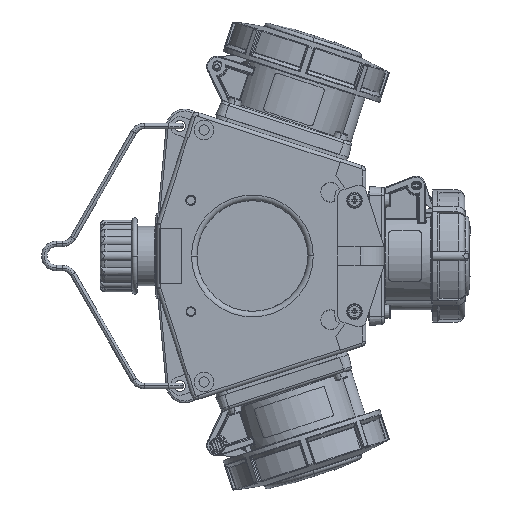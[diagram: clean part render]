
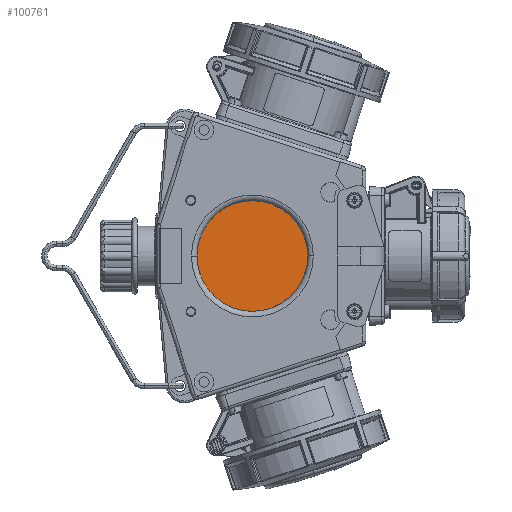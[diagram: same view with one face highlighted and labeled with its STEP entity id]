
A CAD part, left-side view. The second image highlights one B-rep face of the part: STEP entity #100761.
In plain terms, the highlighted planar face has unit normal (-1, 0, 0).
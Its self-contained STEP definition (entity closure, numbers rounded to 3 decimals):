
#20807=CARTESIAN_POINT('',(-45.5,-5.06,0.));
#20808=DIRECTION('',(-1.,0.,0.));
#20809=DIRECTION('',(0.,1.,0.));
#20810=AXIS2_PLACEMENT_3D('',#20807,#20808,#20809);
#20823=CARTESIAN_POINT('',(-45.5,-5.06,0.));
#20824=DIRECTION('',(-1.,0.,0.));
#20825=DIRECTION('',(0.,-1.,0.));
#20826=AXIS2_PLACEMENT_3D('',#20823,#20824,#20825);
#67453=CARTESIAN_POINT('',(-45.5,24.762,0.));
#67454=CARTESIAN_POINT('',(-45.5,-34.882,0.));
#67455=VERTEX_POINT('',#67453);
#67456=VERTEX_POINT('',#67454);
#100751=CARTESIAN_POINT('',(-45.5,0.,0.));
#100752=DIRECTION('',(-1.,0.,0.));
#100753=DIRECTION('',(0.,0.,1.));
#100754=AXIS2_PLACEMENT_3D('',#100751,#100752,#100753);
#100755=PLANE('2928',#100754);
#100756=ORIENTED_EDGE('3231',*,*,#100729,.F.);
#100758=ORIENTED_EDGE('3232',*,*,#100757,.F.);
#100759=EDGE_LOOP('2928',(#100756,#100758));
#100760=FACE_OUTER_BOUND('2928',#100759,.F.);
#20811=CIRCLE('3231',#20810,29.822);
#20827=CIRCLE('3232',#20826,29.822);
#100729=EDGE_CURVE('3231',#67455,#67456,#20811,.T.);
#100757=EDGE_CURVE('3232',#67456,#67455,#20827,.T.);
#100761=ADVANCED_FACE('2928',(#100760),#100755,.T.);
